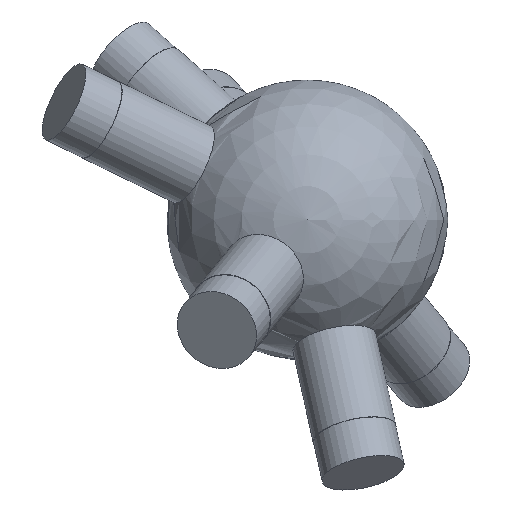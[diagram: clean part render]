
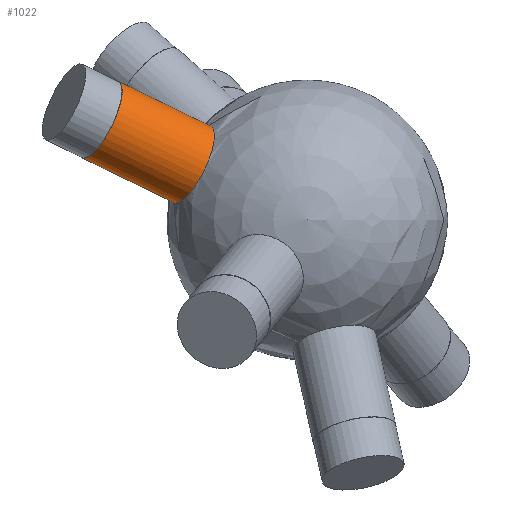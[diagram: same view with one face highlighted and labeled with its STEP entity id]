
A CAD part, top view. The second image highlights one B-rep face of the part: STEP entity #1022.
In plain terms, the highlighted cylindrical face has radius 6 mm (diameter 12 mm), a full revolution.
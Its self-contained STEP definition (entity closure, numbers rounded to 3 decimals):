
#37 = SPHERICAL_SURFACE('',#38,20.);
#38 = AXIS2_PLACEMENT_3D('',#39,#40,#41);
#39 = CARTESIAN_POINT('',(0.,0.,0.));
#40 = DIRECTION('',(0.,0.,1.));
#41 = DIRECTION('',(1.,0.,-0.));
#493 = EDGE_CURVE('',#494,#494,#496,.T.);
#494 = VERTEX_POINT('',#495);
#495 = CARTESIAN_POINT('',(-18.895,2.495,6.063)
  );
#496 = SURFACE_CURVE('',#497,(#502,#564),.PCURVE_S1.);
#497 = CIRCLE('',#498,6.);
#498 = AXIS2_PLACEMENT_3D('',#499,#500,#501);
#499 = CARTESIAN_POINT('',(-16.277,7.894,6.063
    ));
#500 = DIRECTION('',(-0.853,0.414,0.318));
#501 = DIRECTION('',(-0.436,-0.9,0.)
  );
#502 = PCURVE('',#37,#503);
#503 = DEFINITIONAL_REPRESENTATION('',(#504),#563);
#504 = B_SPLINE_CURVE_WITH_KNOTS('',8,(#505,#506,#507,#508,#509,#510,
    #511,#512,#513,#514,#515,#516,#517,#518,#519,#520,#521,#522,#523,
    #524,#525,#526,#527,#528,#529,#530,#531,#532,#533,#534,#535,#536,
    #537,#538,#539,#540,#541,#542,#543,#544,#545,#546,#547,#548,#549,
    #550,#551,#552,#553,#554,#555,#556,#557,#558,#559,#560,#561,#562),
  .UNSPECIFIED.,.F.,.F.,(9,7,7,7,7,7,7,7,9),(0.,0.785,
    1.473,2.074,2.6,3.521,
    4.211,5.247,6.283),.UNSPECIFIED.);
#505 = CARTESIAN_POINT('',(3.01,0.308));
#506 = CARTESIAN_POINT('',(3.013,0.337));
#507 = CARTESIAN_POINT('',(3.013,0.367));
#508 = CARTESIAN_POINT('',(3.01,0.396));
#509 = CARTESIAN_POINT('',(3.003,0.426));
#510 = CARTESIAN_POINT('',(2.992,0.454));
#511 = CARTESIAN_POINT('',(2.978,0.481));
#512 = CARTESIAN_POINT('',(2.96,0.506));
#513 = CARTESIAN_POINT('',(2.919,0.549));
#514 = CARTESIAN_POINT('',(2.898,0.567));
#515 = CARTESIAN_POINT('',(2.874,0.583));
#516 = CARTESIAN_POINT('',(2.848,0.597));
#517 = CARTESIAN_POINT('',(2.819,0.609));
#518 = CARTESIAN_POINT('',(2.789,0.618));
#519 = CARTESIAN_POINT('',(2.758,0.623));
#520 = CARTESIAN_POINT('',(2.699,0.629));
#521 = CARTESIAN_POINT('',(2.671,0.629));
#522 = CARTESIAN_POINT('',(2.643,0.627));
#523 = CARTESIAN_POINT('',(2.615,0.623));
#524 = CARTESIAN_POINT('',(2.588,0.617));
#525 = CARTESIAN_POINT('',(2.562,0.608));
#526 = CARTESIAN_POINT('',(2.538,0.598));
#527 = CARTESIAN_POINT('',(2.496,0.574));
#528 = CARTESIAN_POINT('',(2.477,0.562));
#529 = CARTESIAN_POINT('',(2.46,0.549));
#530 = CARTESIAN_POINT('',(2.445,0.534));
#531 = CARTESIAN_POINT('',(2.43,0.518));
#532 = CARTESIAN_POINT('',(2.418,0.502));
#533 = CARTESIAN_POINT('',(2.407,0.484));
#534 = CARTESIAN_POINT('',(2.382,0.435));
#535 = CARTESIAN_POINT('',(2.371,0.402));
#536 = CARTESIAN_POINT('',(2.365,0.367));
#537 = CARTESIAN_POINT('',(2.364,0.332));
#538 = CARTESIAN_POINT('',(2.367,0.297));
#539 = CARTESIAN_POINT('',(2.375,0.263));
#540 = CARTESIAN_POINT('',(2.386,0.23));
#541 = CARTESIAN_POINT('',(2.413,0.176));
#542 = CARTESIAN_POINT('',(2.427,0.154));
#543 = CARTESIAN_POINT('',(2.443,0.133));
#544 = CARTESIAN_POINT('',(2.46,0.113));
#545 = CARTESIAN_POINT('',(2.479,0.095));
#546 = CARTESIAN_POINT('',(2.5,0.079));
#547 = CARTESIAN_POINT('',(2.522,0.065));
#548 = CARTESIAN_POINT('',(2.58,0.036));
#549 = CARTESIAN_POINT('',(2.617,0.023));
#550 = CARTESIAN_POINT('',(2.656,0.015));
#551 = CARTESIAN_POINT('',(2.695,0.013));
#552 = CARTESIAN_POINT('',(2.735,0.017));
#553 = CARTESIAN_POINT('',(2.773,0.026));
#554 = CARTESIAN_POINT('',(2.81,0.04));
#555 = CARTESIAN_POINT('',(2.878,0.077));
#556 = CARTESIAN_POINT('',(2.909,0.101));
#557 = CARTESIAN_POINT('',(2.938,0.129));
#558 = CARTESIAN_POINT('',(2.962,0.16));
#559 = CARTESIAN_POINT('',(2.982,0.195));
#560 = CARTESIAN_POINT('',(2.997,0.231));
#561 = CARTESIAN_POINT('',(3.006,0.269));
#562 = CARTESIAN_POINT('',(3.01,0.308));
#563 = ( GEOMETRIC_REPRESENTATION_CONTEXT(2) 
PARAMETRIC_REPRESENTATION_CONTEXT() REPRESENTATION_CONTEXT('2D SPACE',''
  ) );
#564 = PCURVE('',#565,#570);
#565 = CYLINDRICAL_SURFACE('',#566,6.);
#566 = AXIS2_PLACEMENT_3D('',#567,#568,#569);
#567 = CARTESIAN_POINT('',(0.,0.,0.));
#568 = DIRECTION('',(-0.853,0.414,0.318));
#569 = DIRECTION('',(-0.436,-0.9,0.)
  );
#570 = DEFINITIONAL_REPRESENTATION('',(#571),#575);
#571 = LINE('',#572,#573);
#572 = CARTESIAN_POINT('',(0.,19.079));
#573 = VECTOR('',#574,1.);
#574 = DIRECTION('',(1.,0.));
#575 = ( GEOMETRIC_REPRESENTATION_CONTEXT(2) 
PARAMETRIC_REPRESENTATION_CONTEXT() REPRESENTATION_CONTEXT('2D SPACE',''
  ) );
#1022 = ADVANCED_FACE('',(#1023),#565,.T.);
#1023 = FACE_BOUND('',#1024,.T.);
#1024 = EDGE_LOOP('',(#1025,#1048,#1075,#1076));
#1025 = ORIENTED_EDGE('',*,*,#1026,.T.);
#1026 = EDGE_CURVE('',#494,#1027,#1029,.T.);
#1027 = VERTEX_POINT('',#1028);
#1028 = CARTESIAN_POINT('',(-31.968,8.836,
    10.932));
#1029 = SEAM_CURVE('',#1030,(#1034,#1041),.PCURVE_S1.);
#1030 = LINE('',#1031,#1032);
#1031 = CARTESIAN_POINT('',(-2.618,-5.399,
    0.));
#1032 = VECTOR('',#1033,1.);
#1033 = DIRECTION('',(-0.853,0.414,0.318));
#1034 = PCURVE('',#565,#1035);
#1035 = DEFINITIONAL_REPRESENTATION('',(#1036),#1040);
#1036 = LINE('',#1037,#1038);
#1037 = CARTESIAN_POINT('',(6.283,-0.));
#1038 = VECTOR('',#1039,1.);
#1039 = DIRECTION('',(0.,1.));
#1040 = ( GEOMETRIC_REPRESENTATION_CONTEXT(2) 
PARAMETRIC_REPRESENTATION_CONTEXT() REPRESENTATION_CONTEXT('2D SPACE',''
  ) );
#1041 = PCURVE('',#565,#1042);
#1042 = DEFINITIONAL_REPRESENTATION('',(#1043),#1047);
#1043 = LINE('',#1044,#1045);
#1044 = CARTESIAN_POINT('',(0.,-0.));
#1045 = VECTOR('',#1046,1.);
#1046 = DIRECTION('',(0.,1.));
#1047 = ( GEOMETRIC_REPRESENTATION_CONTEXT(2) 
PARAMETRIC_REPRESENTATION_CONTEXT() REPRESENTATION_CONTEXT('2D SPACE',''
  ) );
#1048 = ORIENTED_EDGE('',*,*,#1049,.F.);
#1049 = EDGE_CURVE('',#1027,#1027,#1050,.T.);
#1050 = SURFACE_CURVE('',#1051,(#1056,#1063),.PCURVE_S1.);
#1051 = CIRCLE('',#1052,6.);
#1052 = AXIS2_PLACEMENT_3D('',#1053,#1054,#1055);
#1053 = CARTESIAN_POINT('',(-29.35,14.234,
    10.932));
#1054 = DIRECTION('',(-0.853,0.414,0.318));
#1055 = DIRECTION('',(-0.436,-0.9,
    0.));
#1056 = PCURVE('',#565,#1057);
#1057 = DEFINITIONAL_REPRESENTATION('',(#1058),#1062);
#1058 = LINE('',#1059,#1060);
#1059 = CARTESIAN_POINT('',(0.,34.403));
#1060 = VECTOR('',#1061,1.);
#1061 = DIRECTION('',(1.,0.));
#1062 = ( GEOMETRIC_REPRESENTATION_CONTEXT(2) 
PARAMETRIC_REPRESENTATION_CONTEXT() REPRESENTATION_CONTEXT('2D SPACE',''
  ) );
#1063 = PCURVE('',#1064,#1069);
#1064 = PLANE('',#1065);
#1065 = AXIS2_PLACEMENT_3D('',#1066,#1067,#1068);
#1066 = CARTESIAN_POINT('',(-29.35,14.234,
    10.932));
#1067 = DIRECTION('',(-0.853,0.414,0.318));
#1068 = DIRECTION('',(-0.436,-0.9,0.
    ));
#1069 = DEFINITIONAL_REPRESENTATION('',(#1070),#1074);
#1070 = CIRCLE('',#1071,6.);
#1071 = AXIS2_PLACEMENT_2D('',#1072,#1073);
#1072 = CARTESIAN_POINT('',(0.,0.));
#1073 = DIRECTION('',(1.,0.));
#1074 = ( GEOMETRIC_REPRESENTATION_CONTEXT(2) 
PARAMETRIC_REPRESENTATION_CONTEXT() REPRESENTATION_CONTEXT('2D SPACE',''
  ) );
#1075 = ORIENTED_EDGE('',*,*,#1026,.F.);
#1076 = ORIENTED_EDGE('',*,*,#493,.T.);
